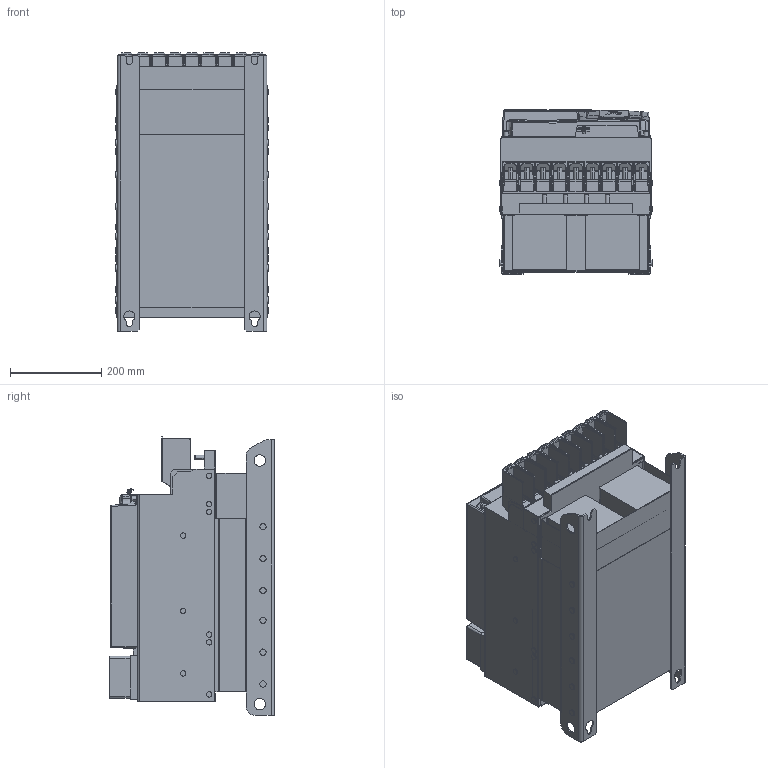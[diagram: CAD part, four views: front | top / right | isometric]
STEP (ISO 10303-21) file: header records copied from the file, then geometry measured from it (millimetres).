
FILE_DESCRIPTION (( 'STEP AP214' ), '1' );
FILE_NAME ('F6-7TR5-A030.STEP', '2021-02-16T09:17:47', ( '' ), ( '' ), 'SwSTEP 2.0', 'SolidWorks 2019', '' );
FILE_SCHEMA (( 'AUTOMOTIVE_DESIGN' ));
Length unit declared in the file: millimetre
Products named in the file (15): 10043622_000_70F6 Klemme (Kundenmodell); 10059765_000; 10061627_000; 10044088_000_Kundenmodell; 10061503_000; 10059764_000_Blindabdeckung (Kundenmodell); 10061504_000_Gehеsebaugruppe mit L’terkarte; F6-7TR5-A030; 10045475_000_Gehеsebaugruppe F6-7 +L’terkarte (Kundenmodell); 10035736_000_Kundenmodell; 10061522_000; 10059763_000; 10061505_000; 10050699_000_Leistungsteil Luft A (Kundenmodell); 10061502_000_Deckel (Kundenmodell)
Assembly tree (14 placements, depth 4):
  F6-7TR5-A030
    10050699_000_Leistungsteil Luft A (Kundenmodell)
      10043622_000_70F6 Klemme (Kundenmodell)
        10061522_000
      10061627_000
    10045475_000_Gehеsebaugruppe F6-7 +L’terkarte (Kundenmodell)
      10061502_000_Deckel (Kundenmodell)
        10061503_000
      10044088_000_Kundenmodell
        10061505_000
      10061504_000_Gehеsebaugruppe mit L’terkarte
    10035736_000_Kundenmodell
      10059764_000_Blindabdeckung (Kundenmodell)
        10059765_000
      10059763_000
Bounding box: 335.4 x 361.4 x 611.76 mm (x, y, z)
Volume: 55934236.3 mm3; surface area: 2323162.4 mm2
Topology: 13 solids, 13 shells, 3414 faces, 8738 edges, 5375 vertices
Faces by surface type: plane 1785, cylinder 1000, bspline 300, sphere 172, torus 89, cone 68
Entity records: 110228 total; most frequent: CARTESIAN_POINT 29302, ORIENTED_EDGE 17254, DIRECTION 15866, EDGE_CURVE 8627, LINE 5622, VECTOR 5622, VERTEX_POINT 5372, AXIS2_PLACEMENT_3D 5122
